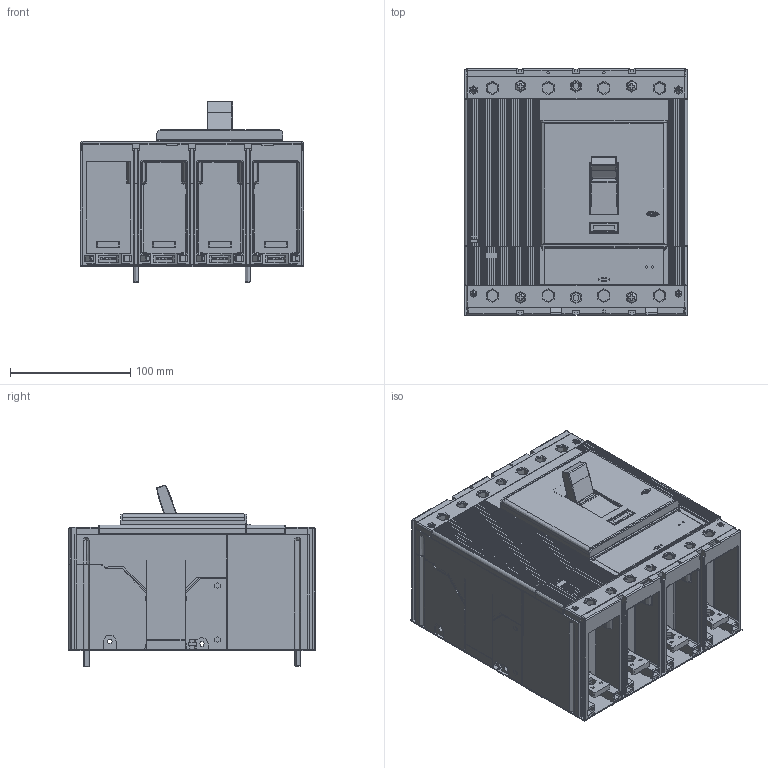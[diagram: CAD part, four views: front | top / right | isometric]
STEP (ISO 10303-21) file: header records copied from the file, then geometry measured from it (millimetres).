
FILE_DESCRIPTION((''),'2;1');
FILE_NAME('10000850732_ASM','2013-12-11T',('VSrinivas'),(''),'PRO/ENGINEER BY PARAMETRIC TECHNOLOGY CORPORATION, 2011330','PRO/ENGINEER BY PARAMETRIC TECHNOLOGY CORPORATION, 2011330','');
FILE_SCHEMA(('CONFIG_CONTROL_DESIGN'));
Products named in the file (5): 10000701832; 10000656504; 10000850723_ASM; 10000850731; 10000850732_ASM
Assembly tree (7 placements, depth 3):
  10000850732_ASM
    10000850723_ASM
      10000701832
      10000656504  x4
    10000850731
Bounding box: 186 x 205 x 151.53 mm (x, y, z)
Topology: 0 solids, 48 shells, 9126 faces, 26397 edges, 16912 vertices
Faces by surface type: plane 5226, cylinder 2789, bspline 298, torus 294, cone 282, sphere 219, extrusion 18
Full cylindrical faces by diameter (mm): 1 x2
Entity records: 318218 total; most frequent: CARTESIAN_POINT 80693, ORIENTED_EDGE 51415, DIRECTION 47435, EDGE_CURVE 25973, VECTOR 17899, LINE 17881, VERTEX_POINT 16811, AXIS2_PLACEMENT_3D 14768
